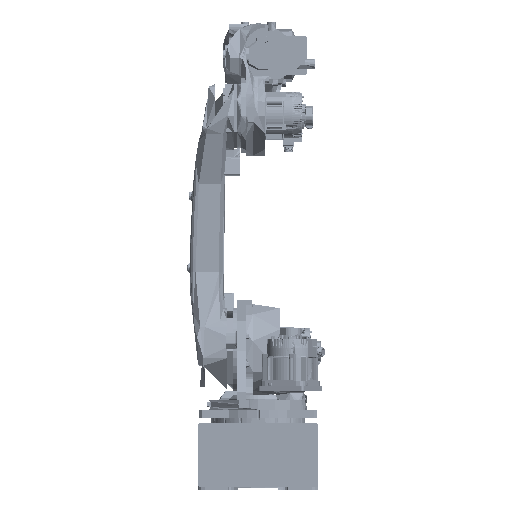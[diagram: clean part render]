
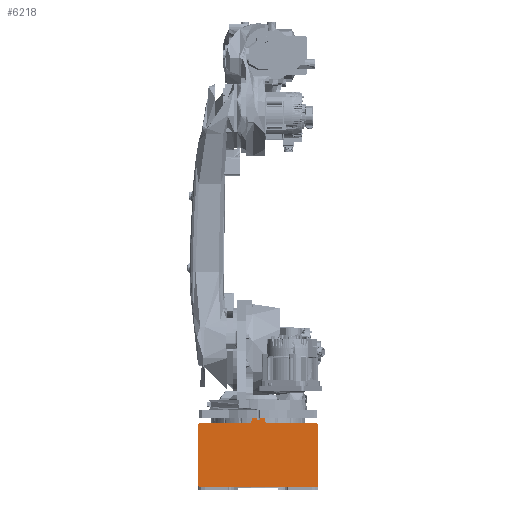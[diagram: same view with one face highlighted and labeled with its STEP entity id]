
A CAD part, front view. The second image highlights one B-rep face of the part: STEP entity #6218.
In plain terms, the highlighted planar face has unit normal (0, -1, 0).
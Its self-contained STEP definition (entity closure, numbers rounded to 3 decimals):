
#661=DIRECTION('',(-1.,0.,0.));
#662=VECTOR('',#661,430.);
#663=CARTESIAN_POINT('',(215.,-400.,10.));
#664=LINE('',#663,#662);
#1605=DIRECTION('',(0.,0.,-1.));
#1606=VECTOR('',#1605,220.);
#1607=CARTESIAN_POINT('',(225.,-400.,240.));
#1608=LINE('',#1607,#1606);
#1626=CARTESIAN_POINT('',(35.,-400.,260.));
#1627=DIRECTION('',(0.,1.,0.));
#1628=DIRECTION('',(0.,0.,-1.));
#1629=AXIS2_PLACEMENT_3D('',#1626,#1627,#1628);
#1634=DIRECTION('',(-1.,0.,0.));
#1635=VECTOR('',#1634,180.);
#1636=CARTESIAN_POINT('',(215.,-400.,250.));
#1637=LINE('',#1636,#1635);
#1641=CARTESIAN_POINT('',(215.,-400.,240.));
#1642=DIRECTION('',(0.,-1.,0.));
#1643=DIRECTION('',(1.,0.,0.));
#1644=AXIS2_PLACEMENT_3D('',#1641,#1642,#1643);
#1649=CARTESIAN_POINT('',(215.,-400.,20.));
#1650=DIRECTION('',(0.,-1.,0.));
#1651=DIRECTION('',(0.,0.,-1.));
#1652=AXIS2_PLACEMENT_3D('',#1649,#1650,#1651);
#1657=CARTESIAN_POINT('',(-215.,-400.,20.));
#1658=DIRECTION('',(0.,-1.,0.));
#1659=DIRECTION('',(-1.,0.,0.));
#1660=AXIS2_PLACEMENT_3D('',#1657,#1658,#1659);
#1665=DIRECTION('',(0.,0.,-1.));
#1666=VECTOR('',#1665,220.);
#1667=CARTESIAN_POINT('',(-225.,-400.,240.));
#1668=LINE('',#1667,#1666);
#1672=CARTESIAN_POINT('',(-215.,-400.,240.));
#1673=DIRECTION('',(0.,-1.,0.));
#1674=DIRECTION('',(0.,0.,1.));
#1675=AXIS2_PLACEMENT_3D('',#1672,#1673,#1674);
#1680=DIRECTION('',(-1.,0.,0.));
#1681=VECTOR('',#1680,180.);
#1682=CARTESIAN_POINT('',(-35.,-400.,250.));
#1683=LINE('',#1682,#1681);
#1687=CARTESIAN_POINT('',(-35.,-400.,260.));
#1688=DIRECTION('',(0.,1.,0.));
#1689=DIRECTION('',(1.,0.,0.));
#1690=AXIS2_PLACEMENT_3D('',#1687,#1688,#1689);
#1695=DIRECTION('',(0.,0.,1.));
#1696=VECTOR('',#1695,10.);
#1697=CARTESIAN_POINT('',(-5.,-400.,260.));
#1698=LINE('',#1697,#1696);
#1702=DIRECTION('',(-1.,0.,0.));
#1703=VECTOR('',#1702,10.);
#1704=CARTESIAN_POINT('',(5.,-400.,260.));
#1705=LINE('',#1704,#1703);
#1709=DIRECTION('',(0.,0.,-1.));
#1710=VECTOR('',#1709,10.);
#1711=CARTESIAN_POINT('',(5.,-400.,270.));
#1712=LINE('',#1711,#1710);
#1737=DIRECTION('',(0.,0.,-1.));
#1738=VECTOR('',#1737,10.);
#1739=CARTESIAN_POINT('',(25.,-400.,270.));
#1740=LINE('',#1739,#1738);
#1774=DIRECTION('',(1.,0.,0.));
#1775=VECTOR('',#1774,20.);
#1776=CARTESIAN_POINT('',(5.,-400.,270.));
#1777=LINE('',#1776,#1775);
#1837=DIRECTION('',(1.,0.,0.));
#1838=VECTOR('',#1837,20.);
#1839=CARTESIAN_POINT('',(-25.,-400.,270.));
#1840=LINE('',#1839,#1838);
#1851=DIRECTION('',(0.,0.,1.));
#1852=VECTOR('',#1851,10.);
#1853=CARTESIAN_POINT('',(-25.,-400.,260.));
#1854=LINE('',#1853,#1852);
#4495=CARTESIAN_POINT('',(215.,-400.,10.));
#4496=VERTEX_POINT('',#4495);
#4497=CARTESIAN_POINT('',(-215.,-400.,10.));
#4498=VERTEX_POINT('',#4497);
#4671=CARTESIAN_POINT('',(215.,-400.,250.));
#4672=CARTESIAN_POINT('',(35.,-400.,250.));
#4673=VERTEX_POINT('',#4671);
#4674=VERTEX_POINT('',#4672);
#4685=CARTESIAN_POINT('',(-215.,-400.,250.));
#4686=VERTEX_POINT('',#4685);
#4687=CARTESIAN_POINT('',(-35.,-400.,250.));
#4688=VERTEX_POINT('',#4687);
#4694=CARTESIAN_POINT('',(225.,-400.,240.));
#4695=VERTEX_POINT('',#4694);
#4696=CARTESIAN_POINT('',(-225.,-400.,240.));
#4697=VERTEX_POINT('',#4696);
#4699=CARTESIAN_POINT('',(-25.,-400.,260.));
#4700=VERTEX_POINT('',#4699);
#4717=CARTESIAN_POINT('',(225.,-400.,20.));
#4718=VERTEX_POINT('',#4717);
#4721=CARTESIAN_POINT('',(-225.,-400.,20.));
#4723=VERTEX_POINT('',#4721);
#4725=CARTESIAN_POINT('',(-25.,-400.,270.));
#4726=VERTEX_POINT('',#4725);
#4727=CARTESIAN_POINT('',(-5.,-400.,270.));
#4728=VERTEX_POINT('',#4727);
#4729=CARTESIAN_POINT('',(-5.,-400.,260.));
#4730=VERTEX_POINT('',#4729);
#4731=CARTESIAN_POINT('',(5.,-400.,260.));
#4732=VERTEX_POINT('',#4731);
#4733=CARTESIAN_POINT('',(5.,-400.,270.));
#4734=VERTEX_POINT('',#4733);
#4735=CARTESIAN_POINT('',(25.,-400.,270.));
#4736=VERTEX_POINT('',#4735);
#4737=CARTESIAN_POINT('',(25.,-400.,260.));
#4738=VERTEX_POINT('',#4737);
#6178=CARTESIAN_POINT('',(-225.,-400.,0.));
#6179=DIRECTION('',(0.,-1.,0.));
#6180=DIRECTION('',(1.,0.,0.));
#6181=AXIS2_PLACEMENT_3D('',#6178,#6179,#6180);
#6182=PLANE('',#6181);
#6184=ORIENTED_EDGE('',*,*,#6183,.F.);
#6186=ORIENTED_EDGE('',*,*,#6185,.F.);
#6187=ORIENTED_EDGE('',*,*,#6171,.F.);
#6188=ORIENTED_EDGE('',*,*,#6159,.T.);
#6190=ORIENTED_EDGE('',*,*,#6189,.F.);
#6191=ORIENTED_EDGE('',*,*,#5449,.T.);
#6193=ORIENTED_EDGE('',*,*,#6192,.F.);
#6195=ORIENTED_EDGE('',*,*,#6194,.F.);
#6197=ORIENTED_EDGE('',*,*,#6196,.F.);
#6199=ORIENTED_EDGE('',*,*,#6198,.F.);
#6201=ORIENTED_EDGE('',*,*,#6200,.F.);
#6203=ORIENTED_EDGE('',*,*,#6202,.T.);
#6205=ORIENTED_EDGE('',*,*,#6204,.T.);
#6207=ORIENTED_EDGE('',*,*,#6206,.F.);
#6209=ORIENTED_EDGE('',*,*,#6208,.F.);
#6211=ORIENTED_EDGE('',*,*,#6210,.F.);
#6213=ORIENTED_EDGE('',*,*,#6212,.T.);
#6215=ORIENTED_EDGE('',*,*,#6214,.T.);
#6216=EDGE_LOOP('',(#6184,#6186,#6187,#6188,#6190,#6191,#6193,#6195,#6197,#6199,
#6201,#6203,#6205,#6207,#6209,#6211,#6213,#6215));
#6217=FACE_OUTER_BOUND('',#6216,.F.);
#1630=CIRCLE('',#1629,10.);
#1645=CIRCLE('',#1644,10.);
#1653=CIRCLE('',#1652,10.);
#1661=CIRCLE('',#1660,10.);
#1676=CIRCLE('',#1675,10.);
#1691=CIRCLE('',#1690,10.);
#5449=EDGE_CURVE('',#4496,#4498,#664,.T.);
#6159=EDGE_CURVE('',#4695,#4718,#1608,.T.);
#6171=EDGE_CURVE('',#4695,#4673,#1645,.T.);
#6183=EDGE_CURVE('',#4674,#4738,#1630,.T.);
#6185=EDGE_CURVE('',#4673,#4674,#1637,.T.);
#6189=EDGE_CURVE('',#4496,#4718,#1653,.T.);
#6192=EDGE_CURVE('',#4723,#4498,#1661,.T.);
#6194=EDGE_CURVE('',#4697,#4723,#1668,.T.);
#6196=EDGE_CURVE('',#4686,#4697,#1676,.T.);
#6198=EDGE_CURVE('',#4688,#4686,#1683,.T.);
#6200=EDGE_CURVE('',#4700,#4688,#1691,.T.);
#6202=EDGE_CURVE('',#4700,#4726,#1854,.T.);
#6204=EDGE_CURVE('',#4726,#4728,#1840,.T.);
#6206=EDGE_CURVE('',#4730,#4728,#1698,.T.);
#6208=EDGE_CURVE('',#4732,#4730,#1705,.T.);
#6210=EDGE_CURVE('',#4734,#4732,#1712,.T.);
#6212=EDGE_CURVE('',#4734,#4736,#1777,.T.);
#6214=EDGE_CURVE('',#4736,#4738,#1740,.T.);
#6218=ADVANCED_FACE('',(#6217),#6182,.T.);
